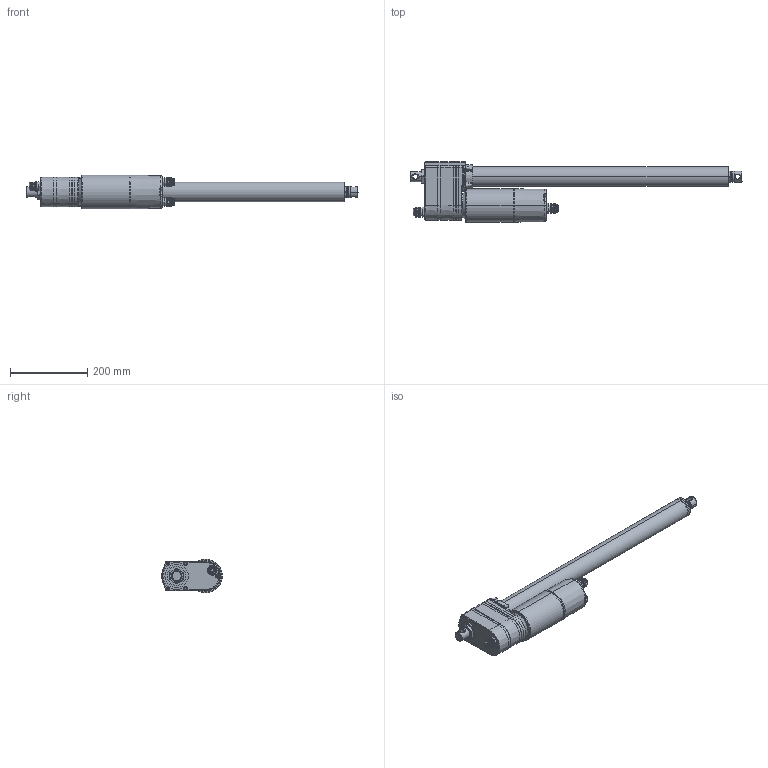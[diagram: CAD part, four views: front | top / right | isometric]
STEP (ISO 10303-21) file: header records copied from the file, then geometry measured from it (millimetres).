
FILE_DESCRIPTION((''),' ');
FILE_NAME('DSZY6-B-457-LT_LT-POT_2011_09_29.stp',' ',('Lindner'),('MSW Motion Control GmbH'),' ','ACIS 14.0',' ');
FILE_SCHEMA(('automotive_design'));
Length unit declared in the file: inch
Products named in the file (30): DSZY6 _ASM|Next assembly relationship#IA05BL04_ASM_3_ASM|Next assembly relationship#05_AC-1_ASM_2_ASM|Next assembly relationship#42_SPACER_3;42_SPACER_3; DSZY6_ASM|Next assembly relationship#IA05BL04_ASM_3_ASM|Next assembly relationship#44_1;44_1; DSZY6_ASM|Next assembly relationship#IA05BL04_ASM_3_ASM|Next assembly relationship#05_AC-1_ASM_2_ASM|Next assembly relationship#42_AC_COVER_1;42_AC_COVER_1; DSZY6_ASM|Next assembly relationship#IA05BL04_ASM_3_ASM|Next assembly relationship#05_AC-1_ASM_2_ASM|Next assembly relationship#AC_MOTOR_COVER_2;AC_MOTOR_COVER_2; DSZY6_ASM|Next assembly relationship#IA05BL04_ASM_3_ASM|Next assembly relationship#05_AC-1_ASM_2_ASM|Next assembly relationship#86_BODY_M16_1;86_BODY_M16_1; DSZY6_ASM|Next assembly relationship#IA05BL04_ASM_3_ASM|Next assembly relationship#49_1;49_1; DSZY6_ASM|Next assembly relationship#IA05BL04_ASM_3_ASM|Next assembly relationship#02-1_ASM_9_ASM|Next assembly relationship#91_2;91_2; DSZY6_ASM|Next assembly relationship#IA05BL04_ASM_3_ASM|Next assembly relationship#02-1_ASM_9_ASM|Next assembly relationship#85_1;85_1; DSZY6_ASM|Next assembly relationship#IA05BL04_ASM_3_ASM|Next assembly relationship#04_270_ASM_4_ASM|Next assembly relationship#7_270_7;7_270_7; DSZY6_ASM|Next assembly relationship#IA05BL04_ASM_3_ASM|Next assembly relationship#02-1_ASM_9_ASM|Next assembly relationship#86_BODY_M12_1;86_BODY_M12_1; DSZY6_ASM|Next assembly relationship#IA05BL04_ASM_3_ASM|Next assembly relationship#05_AC-1_ASM_2_ASM|Next assembly relationship#42_SPACER_3;42_SPACER_3; DSZY6_ASM|Next assembly relationship#IA05BL04_ASM_3_ASM|Next assembly relationship#48_1;48_1; DSZY6_ASM|Next assembly relationship#IA05BL04_ASM_3_ASM|Next assembly relationship#04_270_ASM_4_ASM|Next assembly relationship#8_6;8_6; DSZY6_ASM|Next assembly relationship#IA05BL04_ASM_3_ASM|Next assembly relationship#04_270_ASM_4_ASM|Next assembly relationship#03_ASM_6_ASM|Next assembly relationship#6_3;6_3; DSZY6_ASM|Next assembly relationship#IA05BL04_ASM_3_ASM|Next assembly relationship#01_ASM_1_ASM|Next assembly relationship#21_1;21_1; DSZY6_ASM|Next assembly relationship#IA05BL04_ASM_3_ASM|Next assembly relationship#05_AC-1_ASM_2_ASM|Next assembly relationship#43_AC_1;43_AC_1; DSZY6_ASM|Next assembly relationship#IA05BL04_ASM_3_ASM|Next assembly relationship#01_ASM_1_ASM|Next assembly relationship#20_2;20_2; DSZY6_ASM|Next assembly relationship#IA05BL04_ASM_3_ASM|Next assembly relationship#04_270_ASM_4_ASM|Next assembly relationship#03_ASM_6_ASM|Next assembly relationship#4_9;4_9; DSZY6_ASM|Next assembly relationship#IA05BL04_ASM_3_ASM|Next assembly relationship#05_AC-1_ASM_2_ASM|Next assembly relationship#42_AC_3;42_AC_3; DSZY6_ASM|Next assembly relationship#IA05BL04_ASM_3_ASM|Next assembly relationship#01_ASM_1_ASM|Next assembly relationship#48_1;48_1; DSZY6_ASM|Next assembly relationship#IA05BL04_ASM_3_ASM|Next assembly relationship#02-1_ASM_9_ASM|Next assembly relationship#89_1;89_1; DSZY6_ASM|Next assembly relationship#IA05BL04_ASM_3_ASM|Next assembly relationship#02-1_ASM_9_ASM|Next assembly relationship#86_BODY_M16_1;86_BODY_M16_1; DSZY6_ASM|Next assembly relationship#IA05BL04_ASM_3_ASM|Next assembly relationship#01_ASM_1_ASM|Next assembly relationship#19_1;19_1; DSZY6_ASM|Next assembly relationship#IA05BL04_ASM_3_ASM|Next assembly relationship#02-1_ASM_9_ASM|Next assembly relationship#87_1;87_1
Bounding box: 857.7 x 156.73 x 87.3 mm (x, y, z)
Volume: 1354299.7 mm3; surface area: 595015.1 mm2
Topology: 30 solids, 30 shells, 1737 faces, 4472 edges, 2831 vertices
Faces by surface type: plane 913, cylinder 414, cone 214, torus 103, bspline 75, sphere 18
Entity records: 72763 total; most frequent: CARTESIAN_POINT 16673, ORIENTED_EDGE 8904, DIRECTION 8351, EDGE_CURVE 4452, AXIS2_PLACEMENT_3D 3057, VERTEX_POINT 2831, LINE 2237, VECTOR 2237
